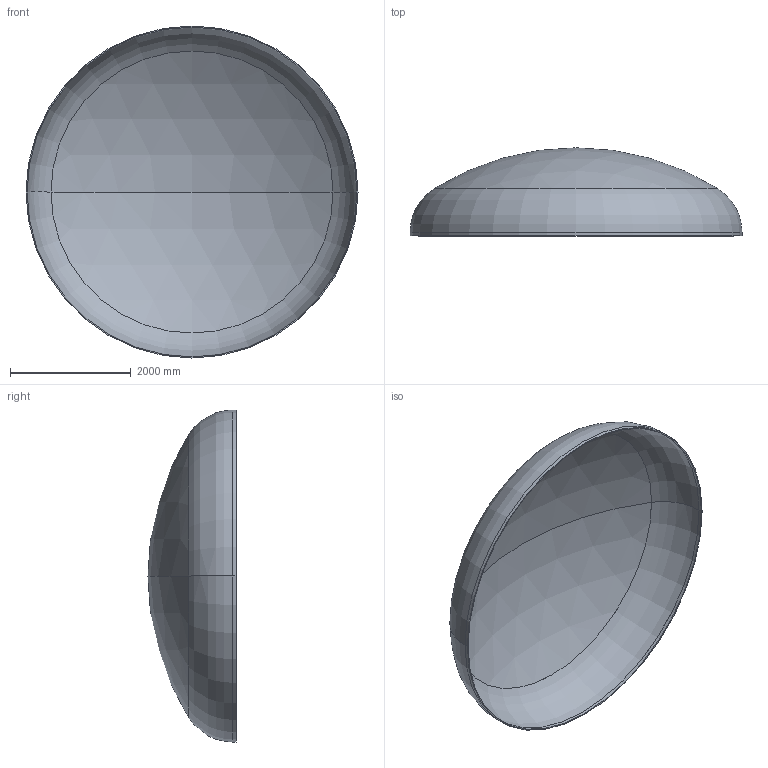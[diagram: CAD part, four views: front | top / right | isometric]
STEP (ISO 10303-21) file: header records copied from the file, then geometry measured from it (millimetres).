
FILE_DESCRIPTION (( 'STEP AP203' ), '1' );
FILE_NAME ('DIN 28013 Korbbogenform_-_Boden DIN 28013 - 5500 x 55 - I - s=17.step', '2016-07-04T10:33:39', ( '' ), ( '' ), 'SwSTEP 2.0', 'SolidWorks 2013', '' );
FILE_SCHEMA (( 'CONFIG_CONTROL_DESIGN' ));
Length unit declared in the file: millimetre
Products named in the file (1): DIN 28013 Korbbogenform_-_Boden DIN 28013 - 5500 x 55 - I - s=17
Bounding box: 5500 x 1459.78 x 5500 mm (x, y, z)
Volume: 572990164.1 mm3; surface area: 67704016.4 mm2
Topology: 1 solids, 1 shells, 13 faces, 24 edges, 14 vertices
Faces by surface type: torus 4, cylinder 4, sphere 4, plane 1
Entity records: 407 total; most frequent: DIRECTION 72, CARTESIAN_POINT 52, ORIENTED_EDGE 48, AXIS2_PLACEMENT_3D 34, EDGE_CURVE 24, CIRCLE 20, EDGE_LOOP 14, VERTEX_POINT 14
